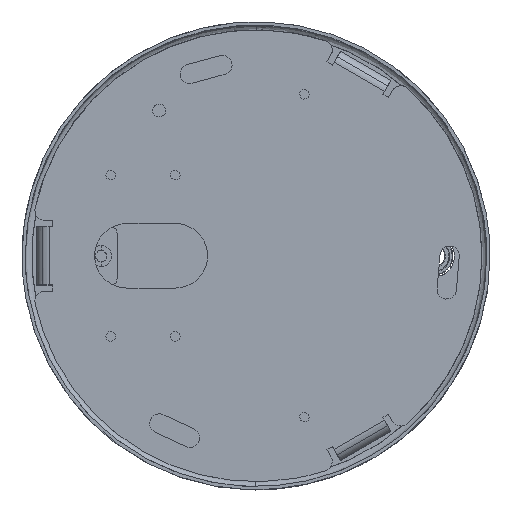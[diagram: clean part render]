
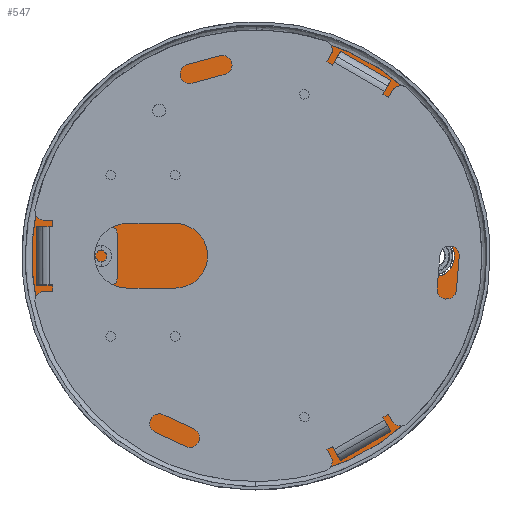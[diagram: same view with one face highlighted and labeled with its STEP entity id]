
A CAD part, top view. The second image highlights one B-rep face of the part: STEP entity #547.
In plain terms, the highlighted planar face has unit normal (0, 0, 1).
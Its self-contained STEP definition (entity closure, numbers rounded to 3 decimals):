
#287=FACE_BOUND('',#2034,.T.);
#288=FACE_BOUND('',#2035,.T.);
#289=FACE_BOUND('',#2036,.T.);
#290=FACE_BOUND('',#2037,.T.);
#547=ADVANCED_FACE('',(#1268,#287,#288,#289,#290),#10909,.T.);
#1268=FACE_OUTER_BOUND('',#2033,.T.);
#2033=EDGE_LOOP('',(#3476,#3477));
#2034=EDGE_LOOP('',(#3478,#3479));
#2035=EDGE_LOOP('',(#3480,#3481));
#2036=EDGE_LOOP('',(#3482,#3483));
#2037=EDGE_LOOP('',(#3484,#3485));
#3476=ORIENTED_EDGE('',*,*,#6565,.T.);
#3477=ORIENTED_EDGE('',*,*,#6562,.T.);
#3478=ORIENTED_EDGE('',*,*,#6540,.T.);
#3479=ORIENTED_EDGE('',*,*,#6569,.T.);
#3480=ORIENTED_EDGE('',*,*,#6543,.T.);
#3481=ORIENTED_EDGE('',*,*,#6572,.T.);
#3482=ORIENTED_EDGE('',*,*,#6575,.F.);
#3483=ORIENTED_EDGE('',*,*,#6546,.F.);
#3484=ORIENTED_EDGE('',*,*,#6549,.T.);
#3485=ORIENTED_EDGE('',*,*,#6578,.T.);
#6540=EDGE_CURVE('',#9902,#9923,#8875,.T.);
#6543=EDGE_CURVE('',#9904,#9925,#8877,.T.);
#6546=EDGE_CURVE('',#9906,#9926,#8879,.T.);
#6549=EDGE_CURVE('',#9908,#9928,#8881,.T.);
#6562=EDGE_CURVE('',#9918,#9916,#8892,.T.);
#6565=EDGE_CURVE('',#9916,#9918,#8895,.T.);
#6569=EDGE_CURVE('',#9923,#9902,#8897,.T.);
#6572=EDGE_CURVE('',#9925,#9904,#8899,.T.);
#6575=EDGE_CURVE('',#9926,#9906,#8901,.T.);
#6578=EDGE_CURVE('',#9928,#9908,#8903,.T.);
#8875=(
BOUNDED_CURVE()
B_SPLINE_CURVE(2,(#14718,#14719,#14720,#14721,#14722),.UNSPECIFIED.,.F.,
 .F.)
B_SPLINE_CURVE_WITH_KNOTS((3,2,3),(-14.137,-10.603,
-7.069),.UNSPECIFIED.)
CURVE()
GEOMETRIC_REPRESENTATION_ITEM()
RATIONAL_B_SPLINE_CURVE((1.,0.707,1.,0.707,1.))
REPRESENTATION_ITEM('')
);
#8877=(
BOUNDED_CURVE()
B_SPLINE_CURVE(2,(#14730,#14731,#14732,#14733,#14734),.UNSPECIFIED.,.F.,
 .F.)
B_SPLINE_CURVE_WITH_KNOTS((3,2,3),(-40.841,-30.631,
-20.42),.UNSPECIFIED.)
CURVE()
GEOMETRIC_REPRESENTATION_ITEM()
RATIONAL_B_SPLINE_CURVE((1.,0.707,1.,0.707,1.))
REPRESENTATION_ITEM('')
);
#8879=(
BOUNDED_CURVE()
B_SPLINE_CURVE(2,(#14742,#14743,#14744,#14745,#14746),.UNSPECIFIED.,.F.,
 .F.)
B_SPLINE_CURVE_WITH_KNOTS((3,2,3),(0.,3.142,6.283),
 .UNSPECIFIED.)
CURVE()
GEOMETRIC_REPRESENTATION_ITEM()
RATIONAL_B_SPLINE_CURVE((1.,0.707,1.,0.707,1.))
REPRESENTATION_ITEM('')
);
#8881=(
BOUNDED_CURVE()
B_SPLINE_CURVE(2,(#14754,#14755,#14756,#14757,#14758),.UNSPECIFIED.,.F.,
 .F.)
B_SPLINE_CURVE_WITH_KNOTS((3,2,3),(-25.133,-18.85,
-12.566),.UNSPECIFIED.)
CURVE()
GEOMETRIC_REPRESENTATION_ITEM()
RATIONAL_B_SPLINE_CURVE((1.,0.707,1.,0.707,1.))
REPRESENTATION_ITEM('')
);
#8892=(
BOUNDED_CURVE()
B_SPLINE_CURVE(2,(#14801,#14802,#14803,#14804,#14805),.UNSPECIFIED.,.F.,
 .F.)
B_SPLINE_CURVE_WITH_KNOTS((3,2,3),(-436.681,-327.511,
-218.341),.UNSPECIFIED.)
CURVE()
GEOMETRIC_REPRESENTATION_ITEM()
RATIONAL_B_SPLINE_CURVE((1.,0.707,1.,0.707,1.))
REPRESENTATION_ITEM('')
);
#8895=(
BOUNDED_CURVE()
B_SPLINE_CURVE(2,(#14812,#14813,#14814,#14815,#14816),.UNSPECIFIED.,.F.,
 .F.)
B_SPLINE_CURVE_WITH_KNOTS((3,2,3),(-218.341,-109.17,
0.),.UNSPECIFIED.)
CURVE()
GEOMETRIC_REPRESENTATION_ITEM()
RATIONAL_B_SPLINE_CURVE((1.,0.707,1.,0.707,1.))
REPRESENTATION_ITEM('')
);
#8897=(
BOUNDED_CURVE()
B_SPLINE_CURVE(2,(#14826,#14827,#14828,#14829,#14830),.UNSPECIFIED.,.F.,
 .F.)
B_SPLINE_CURVE_WITH_KNOTS((3,2,3),(-7.069,-3.534,
0.),.UNSPECIFIED.)
CURVE()
GEOMETRIC_REPRESENTATION_ITEM()
RATIONAL_B_SPLINE_CURVE((1.,0.707,1.,0.707,1.))
REPRESENTATION_ITEM('')
);
#8899=(
BOUNDED_CURVE()
B_SPLINE_CURVE(2,(#14838,#14839,#14840,#14841,#14842),.UNSPECIFIED.,.F.,
 .F.)
B_SPLINE_CURVE_WITH_KNOTS((3,2,3),(-20.42,-10.21,
0.),.UNSPECIFIED.)
CURVE()
GEOMETRIC_REPRESENTATION_ITEM()
RATIONAL_B_SPLINE_CURVE((1.,0.707,1.,0.707,1.))
REPRESENTATION_ITEM('')
);
#8901=(
BOUNDED_CURVE()
B_SPLINE_CURVE(2,(#14850,#14851,#14852,#14853,#14854),.UNSPECIFIED.,.F.,
 .F.)
B_SPLINE_CURVE_WITH_KNOTS((3,2,3),(6.283,9.425,12.566),
 .UNSPECIFIED.)
CURVE()
GEOMETRIC_REPRESENTATION_ITEM()
RATIONAL_B_SPLINE_CURVE((1.,0.707,1.,0.707,1.))
REPRESENTATION_ITEM('')
);
#8903=(
BOUNDED_CURVE()
B_SPLINE_CURVE(2,(#14862,#14863,#14864,#14865,#14866),.UNSPECIFIED.,.F.,
 .F.)
B_SPLINE_CURVE_WITH_KNOTS((3,2,3),(-12.566,-6.283,
0.),.UNSPECIFIED.)
CURVE()
GEOMETRIC_REPRESENTATION_ITEM()
RATIONAL_B_SPLINE_CURVE((1.,0.707,1.,0.707,1.))
REPRESENTATION_ITEM('')
);
#9902=VERTEX_POINT('',#14686);
#9904=VERTEX_POINT('',#14688);
#9906=VERTEX_POINT('',#14690);
#9908=VERTEX_POINT('',#14692);
#9916=VERTEX_POINT('',#14700);
#9918=VERTEX_POINT('',#14702);
#9923=VERTEX_POINT('',#14707);
#9925=VERTEX_POINT('',#14709);
#9926=VERTEX_POINT('',#14710);
#9928=VERTEX_POINT('',#14712);
#10909=PLANE('',#11711);
#11711=AXIS2_PLACEMENT_3D('',#14542,#12208,$);
#12208=DIRECTION('',(0.,0.,1.));
#14542=CARTESIAN_POINT('',(83.52,-83.52,-45.));
#14686=CARTESIAN_POINT('',(27.25,0.,-45.));
#14688=CARTESIAN_POINT('',(61.5,0.,-45.));
#14690=CARTESIAN_POINT('',(-26.,33.,-45.));
#14692=CARTESIAN_POINT('',(4.,0.,-45.));
#14700=CARTESIAN_POINT('',(0.,69.5,-45.));
#14702=CARTESIAN_POINT('',(0.,-69.5,-45.));
#14707=CARTESIAN_POINT('',(22.75,0.,-45.));
#14709=CARTESIAN_POINT('',(48.5,0.,-45.));
#14710=CARTESIAN_POINT('',(-30.,33.,-45.));
#14712=CARTESIAN_POINT('',(-4.,0.,-45.));
#14718=CARTESIAN_POINT('',(27.25,0.,-45.));
#14719=CARTESIAN_POINT('',(27.25,-2.25,-45.));
#14720=CARTESIAN_POINT('',(25.,-2.25,-45.));
#14721=CARTESIAN_POINT('',(22.75,-2.25,-45.));
#14722=CARTESIAN_POINT('',(22.75,0.,-45.));
#14730=CARTESIAN_POINT('',(61.5,0.,-45.));
#14731=CARTESIAN_POINT('',(61.5,-6.5,-45.));
#14732=CARTESIAN_POINT('',(55.,-6.5,-45.));
#14733=CARTESIAN_POINT('',(48.5,-6.5,-45.));
#14734=CARTESIAN_POINT('',(48.5,0.,-45.));
#14742=CARTESIAN_POINT('',(-26.,33.,-45.));
#14743=CARTESIAN_POINT('',(-26.,35.,-45.));
#14744=CARTESIAN_POINT('',(-28.,35.,-45.));
#14745=CARTESIAN_POINT('',(-30.,35.,-45.));
#14746=CARTESIAN_POINT('',(-30.,33.,-45.));
#14754=CARTESIAN_POINT('',(4.,0.,-45.));
#14755=CARTESIAN_POINT('',(4.,-4.,-45.));
#14756=CARTESIAN_POINT('',(0.,-4.,-45.));
#14757=CARTESIAN_POINT('',(-4.,-4.,-45.));
#14758=CARTESIAN_POINT('',(-4.,0.,-45.));
#14801=CARTESIAN_POINT('',(0.,-69.5,-45.));
#14802=CARTESIAN_POINT('',(69.5,-69.5,-45.));
#14803=CARTESIAN_POINT('',(69.5,0.,-45.));
#14804=CARTESIAN_POINT('',(69.5,69.5,-45.));
#14805=CARTESIAN_POINT('',(0.,69.5,-45.));
#14812=CARTESIAN_POINT('',(0.,69.5,-45.));
#14813=CARTESIAN_POINT('',(-69.5,69.5,-45.));
#14814=CARTESIAN_POINT('',(-69.5,0.,-45.));
#14815=CARTESIAN_POINT('',(-69.5,-69.5,-45.));
#14816=CARTESIAN_POINT('',(0.,-69.5,-45.));
#14826=CARTESIAN_POINT('',(22.75,0.,-45.));
#14827=CARTESIAN_POINT('',(22.75,2.25,-45.));
#14828=CARTESIAN_POINT('',(25.,2.25,-45.));
#14829=CARTESIAN_POINT('',(27.25,2.25,-45.));
#14830=CARTESIAN_POINT('',(27.25,0.,-45.));
#14838=CARTESIAN_POINT('',(48.5,0.,-45.));
#14839=CARTESIAN_POINT('',(48.5,6.5,-45.));
#14840=CARTESIAN_POINT('',(55.,6.5,-45.));
#14841=CARTESIAN_POINT('',(61.5,6.5,-45.));
#14842=CARTESIAN_POINT('',(61.5,0.,-45.));
#14850=CARTESIAN_POINT('',(-30.,33.,-45.));
#14851=CARTESIAN_POINT('',(-30.,31.,-45.));
#14852=CARTESIAN_POINT('',(-28.,31.,-45.));
#14853=CARTESIAN_POINT('',(-26.,31.,-45.));
#14854=CARTESIAN_POINT('',(-26.,33.,-45.));
#14862=CARTESIAN_POINT('',(-4.,0.,-45.));
#14863=CARTESIAN_POINT('',(-4.,4.,-45.));
#14864=CARTESIAN_POINT('',(0.,4.,-45.));
#14865=CARTESIAN_POINT('',(4.,4.,-45.));
#14866=CARTESIAN_POINT('',(4.,0.,-45.));
